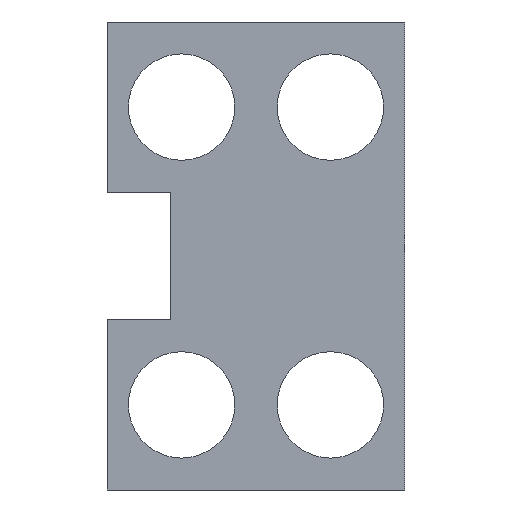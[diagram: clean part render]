
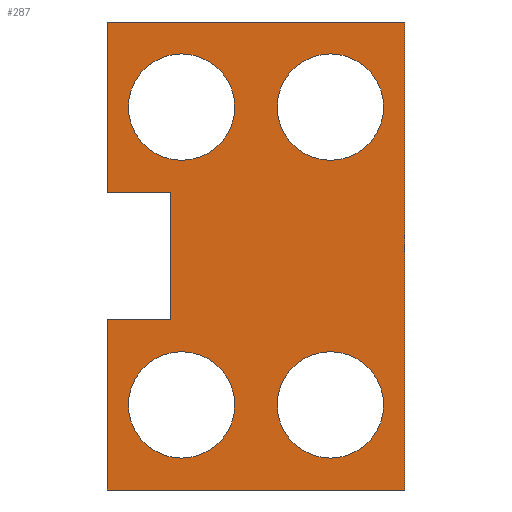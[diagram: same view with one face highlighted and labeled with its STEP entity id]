
A CAD part, left-side view. The second image highlights one B-rep face of the part: STEP entity #287.
In plain terms, the highlighted planar face has unit normal (-1, 0, 0).
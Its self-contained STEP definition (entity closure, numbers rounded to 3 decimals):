
#19=FACE_BOUND('',#113,.T.);
#20=FACE_BOUND('',#114,.T.);
#21=FACE_BOUND('',#115,.T.);
#22=FACE_BOUND('',#116,.T.);
#35=LINE('',#408,#59);
#40=LINE('',#417,#64);
#41=LINE('',#420,#65);
#47=LINE('',#442,#71);
#49=LINE('',#445,#73);
#50=LINE('',#458,#74);
#51=LINE('',#460,#75);
#52=LINE('',#461,#76);
#59=VECTOR('',#330,10.);
#64=VECTOR('',#337,10.);
#65=VECTOR('',#340,10.);
#71=VECTOR('',#360,10.);
#73=VECTOR('',#364,10.);
#74=VECTOR('',#379,10.);
#75=VECTOR('',#380,10.);
#76=VECTOR('',#381,10.);
#92=FACE_OUTER_BOUND('',#112,.T.);
#112=EDGE_LOOP('',(#227,#228,#229,#230,#231,#232,#233,#234));
#113=EDGE_LOOP('',(#235));
#114=EDGE_LOOP('',(#236));
#115=EDGE_LOOP('',(#237));
#116=EDGE_LOOP('',(#238));
#129=CIRCLE('',#301,2.5);
#131=CIRCLE('',#304,2.5);
#133=CIRCLE('',#309,2.5);
#135=CIRCLE('',#312,2.5);
#139=VERTEX_POINT('',#404);
#141=VERTEX_POINT('',#407);
#144=VERTEX_POINT('',#415);
#145=VERTEX_POINT('',#419);
#147=VERTEX_POINT('',#425);
#149=VERTEX_POINT('',#430);
#151=VERTEX_POINT('',#435);
#154=VERTEX_POINT('',#440);
#155=VERTEX_POINT('',#447);
#157=VERTEX_POINT('',#452);
#159=VERTEX_POINT('',#457);
#160=VERTEX_POINT('',#459);
#166=EDGE_CURVE('',#139,#141,#35,.T.);
#171=EDGE_CURVE('',#139,#144,#40,.T.);
#172=EDGE_CURVE('',#145,#141,#41,.T.);
#175=EDGE_CURVE('',#147,#147,#129,.T.);
#177=EDGE_CURVE('',#149,#149,#131,.T.);
#182=EDGE_CURVE('',#151,#154,#47,.T.);
#184=EDGE_CURVE('',#154,#145,#49,.T.);
#185=EDGE_CURVE('',#155,#155,#133,.T.);
#187=EDGE_CURVE('',#157,#157,#135,.T.);
#189=EDGE_CURVE('',#159,#151,#50,.T.);
#190=EDGE_CURVE('',#144,#160,#51,.T.);
#191=EDGE_CURVE('',#160,#159,#52,.T.);
#227=ORIENTED_EDGE('',*,*,#189,.T.);
#228=ORIENTED_EDGE('',*,*,#182,.T.);
#229=ORIENTED_EDGE('',*,*,#184,.T.);
#230=ORIENTED_EDGE('',*,*,#172,.T.);
#231=ORIENTED_EDGE('',*,*,#166,.F.);
#232=ORIENTED_EDGE('',*,*,#171,.T.);
#233=ORIENTED_EDGE('',*,*,#190,.T.);
#234=ORIENTED_EDGE('',*,*,#191,.T.);
#235=ORIENTED_EDGE('',*,*,#177,.T.);
#236=ORIENTED_EDGE('',*,*,#175,.T.);
#237=ORIENTED_EDGE('',*,*,#185,.T.);
#238=ORIENTED_EDGE('',*,*,#187,.T.);
#272=PLANE('',#314);
#287=ADVANCED_FACE('',(#92,#19,#20,#21,#22),#272,.T.);
#301=AXIS2_PLACEMENT_3D('',#426,#345,#346);
#304=AXIS2_PLACEMENT_3D('',#431,#351,#352);
#309=AXIS2_PLACEMENT_3D('',#448,#367,#368);
#312=AXIS2_PLACEMENT_3D('',#453,#373,#374);
#314=AXIS2_PLACEMENT_3D('',#456,#377,#378);
#330=DIRECTION('',(0.,0.,1.));
#337=DIRECTION('',(0.,1.,0.));
#340=DIRECTION('',(0.,-1.,0.));
#345=DIRECTION('center_axis',(1.,0.,0.));
#346=DIRECTION('ref_axis',(0.,-1.,0.));
#351=DIRECTION('center_axis',(1.,0.,0.));
#352=DIRECTION('ref_axis',(0.,-1.,0.));
#360=DIRECTION('',(0.,1.,0.));
#364=DIRECTION('',(0.,0.,-1.));
#367=DIRECTION('center_axis',(1.,0.,0.));
#368=DIRECTION('ref_axis',(0.,-1.,0.));
#373=DIRECTION('center_axis',(1.,0.,0.));
#374=DIRECTION('ref_axis',(0.,-1.,0.));
#377=DIRECTION('center_axis',(-1.,0.,0.));
#378=DIRECTION('ref_axis',(0.,0.,1.));
#379=DIRECTION('',(0.,0.,1.));
#380=DIRECTION('',(0.,0.,-1.));
#381=DIRECTION('',(0.,-1.,0.));
#404=CARTESIAN_POINT('',(-61.007,30.619,-3.));
#407=CARTESIAN_POINT('',(-61.007,30.619,3.));
#408=CARTESIAN_POINT('',(-61.007,30.619,3.));
#415=CARTESIAN_POINT('',(-61.007,33.619,-3.));
#417=CARTESIAN_POINT('',(-61.007,33.619,-3.));
#419=CARTESIAN_POINT('',(-61.007,33.619,3.));
#420=CARTESIAN_POINT('',(-61.007,19.619,3.));
#425=CARTESIAN_POINT('',(-61.007,25.619,7.));
#426=CARTESIAN_POINT('Origin',(-61.007,23.119,7.));
#430=CARTESIAN_POINT('',(-61.007,32.619,7.));
#431=CARTESIAN_POINT('Origin',(-61.007,30.119,7.));
#435=CARTESIAN_POINT('',(-61.007,19.619,11.));
#440=CARTESIAN_POINT('',(-61.007,33.619,11.));
#442=CARTESIAN_POINT('',(-61.007,33.619,11.));
#445=CARTESIAN_POINT('',(-61.007,33.619,3.));
#447=CARTESIAN_POINT('',(-61.007,32.619,-7.));
#448=CARTESIAN_POINT('Origin',(-61.007,30.119,-7.));
#452=CARTESIAN_POINT('',(-61.007,25.619,-7.));
#453=CARTESIAN_POINT('Origin',(-61.007,23.119,-7.));
#456=CARTESIAN_POINT('Origin',(-61.007,26.619,-7.));
#457=CARTESIAN_POINT('',(-61.007,19.619,-11.));
#458=CARTESIAN_POINT('',(-61.007,19.619,-3.));
#459=CARTESIAN_POINT('',(-61.007,33.619,-11.));
#460=CARTESIAN_POINT('',(-61.007,33.619,-11.));
#461=CARTESIAN_POINT('',(-61.007,19.619,-11.));
